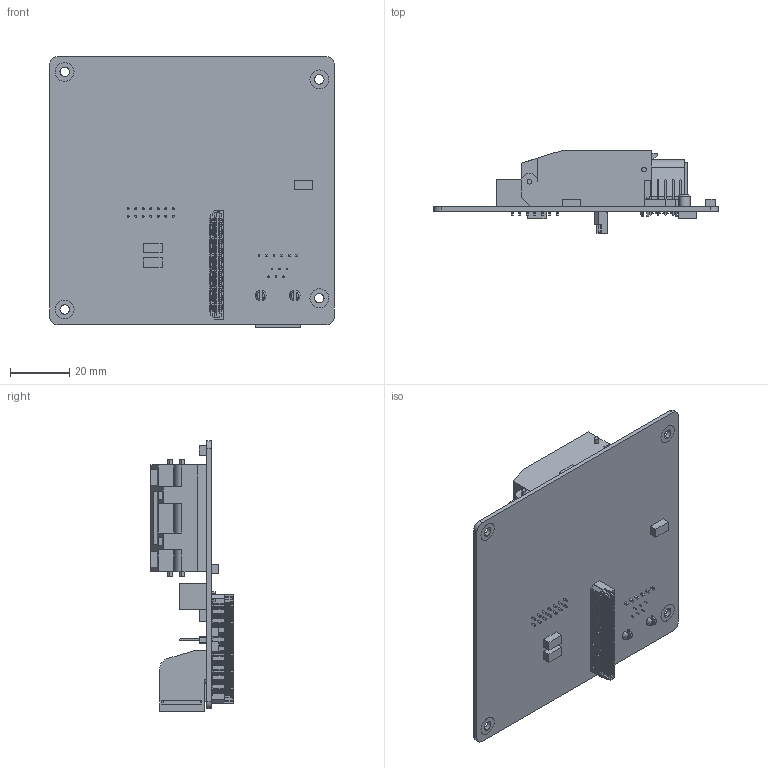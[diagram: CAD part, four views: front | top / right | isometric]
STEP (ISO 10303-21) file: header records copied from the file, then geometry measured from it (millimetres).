
FILE_DESCRIPTION (( 'STEP AP214' ), '1' );
FILE_NAME ('711-00608 Pluggable Socketed Processor Module D Rev A.STEP', '2017-01-20T18:09:12', ( '' ), ( '' ), 'SwSTEP 2.0', 'SolidWorks 2014', '' );
FILE_SCHEMA (( 'AUTOMOTIVE_DESIGN' ));
Length unit declared in the file: inch
Products named in the file (2): 711-00608 Pluggable Socketed Processor Module D Rev A
Bounding box: 95.89 x 27.62 x 91.06 mm (x, y, z)
Volume: 42475.5 mm3; surface area: 31060.6 mm2
Topology: 1 solids, 31 shells, 7803 faces, 24559 edges, 16063 vertices
Faces by surface type: plane 5519, cylinder 2267, sphere 10, cone 4, torus 3
Entity records: 275713 total; most frequent: CARTESIAN_POINT 49341, ORIENTED_EDGE 49098, DIRECTION 44397, EDGE_CURVE 24549, LINE 19695, VECTOR 19695, VERTEX_POINT 16063, AXIS2_PLACEMENT_3D 12351
